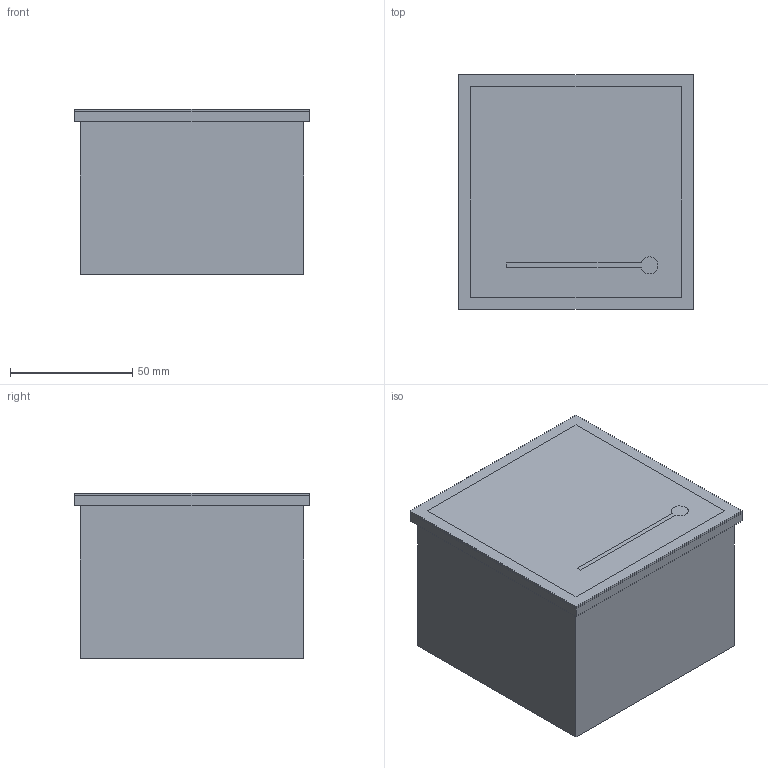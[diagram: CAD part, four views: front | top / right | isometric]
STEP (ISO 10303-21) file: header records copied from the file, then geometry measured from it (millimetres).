
FILE_DESCRIPTION (( 'STEP AP214' ), '1' );
FILE_NAME ('9604+9620.STEP', '2016-01-18T10:47:23', ( 'User' ), ( 'Bender' ), 'SwSTEP 2.0', 'SolidWorks 2015', '' );
FILE_SCHEMA (( 'AUTOMOTIVE_DESIGN' ));
Length unit declared in the file: millimetre
Products named in the file (1): 9604+9620
Bounding box: 96 x 96 x 67.51 mm (x, y, z)
Volume: 571184 mm3; surface area: 47899 mm2
Topology: 3 solids, 3 shells, 27 faces, 60 edges, 40 vertices
Faces by surface type: plane 26, cylinder 1
Entity records: 1023 total; most frequent: CARTESIAN_POINT 128, ORIENTED_EDGE 120, DIRECTION 118, EDGE_CURVE 60, VECTOR 58, LINE 58, VERTEX_POINT 40, EDGE_LOOP 30
